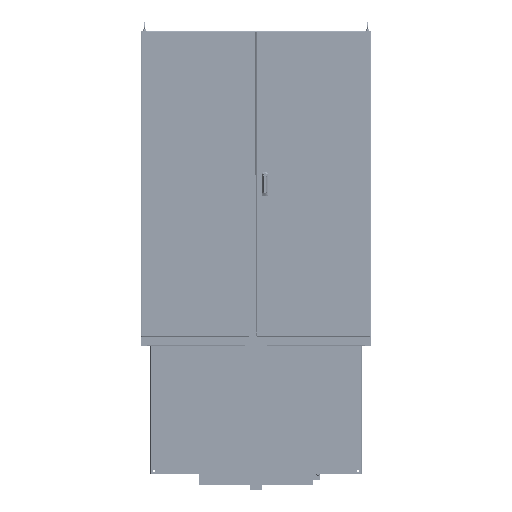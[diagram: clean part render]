
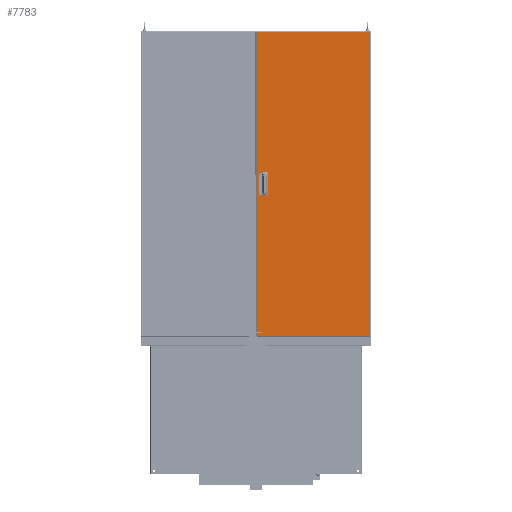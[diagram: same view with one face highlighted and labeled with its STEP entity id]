
A CAD part, front view. The second image highlights one B-rep face of the part: STEP entity #7783.
In plain terms, the highlighted planar face has unit normal (0, -1, 0).
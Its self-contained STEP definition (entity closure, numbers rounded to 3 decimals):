
#7783 = ADVANCED_FACE( '', ( #11497, #11498, #11499, #11500, #11501, #11502 ), #11503, .T. );
#11497 = FACE_BOUND( '', #18140, .T. );
#11498 = FACE_BOUND( '', #18141, .T. );
#11499 = FACE_BOUND( '', #18142, .T. );
#11500 = FACE_OUTER_BOUND( '', #18143, .T. );
#11501 = FACE_BOUND( '', #18144, .T. );
#11502 = FACE_BOUND( '', #18145, .T. );
#11503 = PLANE( '', #18146 );
#18140 = EDGE_LOOP( '', ( #32318, #32319, #32320, #32321 ) );
#18141 = EDGE_LOOP( '', ( #32322 ) );
#18142 = EDGE_LOOP( '', ( #32323, #32324, #32325, #32326 ) );
#18143 = EDGE_LOOP( '', ( #32327, #32328, #32329, #32330 ) );
#18144 = EDGE_LOOP( '', ( #32331, #32332, #32333, #32334 ) );
#18145 = EDGE_LOOP( '', ( #32335 ) );
#18146 = AXIS2_PLACEMENT_3D( '', #32336, #32337, #32338 );
#32318 = ORIENTED_EDGE( '', *, *, #51620, .F. );
#32319 = ORIENTED_EDGE( '', *, *, #51621, .F. );
#32320 = ORIENTED_EDGE( '', *, *, #51622, .F. );
#32321 = ORIENTED_EDGE( '', *, *, #51623, .F. );
#32322 = ORIENTED_EDGE( '', *, *, #51624, .T. );
#32323 = ORIENTED_EDGE( '', *, *, #51625, .F. );
#32324 = ORIENTED_EDGE( '', *, *, #51626, .F. );
#32325 = ORIENTED_EDGE( '', *, *, #51627, .F. );
#32326 = ORIENTED_EDGE( '', *, *, #51628, .F. );
#32327 = ORIENTED_EDGE( '', *, *, #51629, .T. );
#32328 = ORIENTED_EDGE( '', *, *, #51630, .F. );
#32329 = ORIENTED_EDGE( '', *, *, #51631, .F. );
#32330 = ORIENTED_EDGE( '', *, *, #51632, .F. );
#32331 = ORIENTED_EDGE( '', *, *, #51633, .T. );
#32332 = ORIENTED_EDGE( '', *, *, #51634, .T. );
#32333 = ORIENTED_EDGE( '', *, *, #51635, .T. );
#32334 = ORIENTED_EDGE( '', *, *, #51636, .T. );
#32335 = ORIENTED_EDGE( '', *, *, #51637, .T. );
#32336 = CARTESIAN_POINT( '', ( -397.701, 0., -1059.656 ) );
#32337 = DIRECTION( '', ( 0., -1., 0. ) );
#32338 = DIRECTION( '', ( 0., 0., -1. ) );
#51620 = EDGE_CURVE( '', #59433, #59434, #59435, .T. );
#51621 = EDGE_CURVE( '', #59436, #59433, #59437, .T. );
#51622 = EDGE_CURVE( '', #59438, #59436, #59439, .T. );
#51623 = EDGE_CURVE( '', #59434, #59438, #59440, .T. );
#51624 = EDGE_CURVE( '', #59441, #59441, #59442, .T. );
#51625 = EDGE_CURVE( '', #59443, #59444, #59445, .T. );
#51626 = EDGE_CURVE( '', #59446, #59443, #59447, .T. );
#51627 = EDGE_CURVE( '', #59448, #59446, #59449, .T. );
#51628 = EDGE_CURVE( '', #59444, #59448, #59450, .T. );
#51629 = EDGE_CURVE( '', #59451, #59452, #59453, .T. );
#51630 = EDGE_CURVE( '', #59454, #59452, #59455, .T. );
#51631 = EDGE_CURVE( '', #59456, #59454, #59457, .T. );
#51632 = EDGE_CURVE( '', #59451, #59456, #59458, .T. );
#51633 = EDGE_CURVE( '', #59459, #59460, #59461, .T. );
#51634 = EDGE_CURVE( '', #59460, #59462, #59463, .T. );
#51635 = EDGE_CURVE( '', #59462, #59464, #59465, .T. );
#51636 = EDGE_CURVE( '', #59464, #59459, #59466, .T. );
#51637 = EDGE_CURVE( '', #59467, #59467, #59468, .T. );
#59433 = VERTEX_POINT( '', #72134 );
#59434 = VERTEX_POINT( '', #72135 );
#59435 = LINE( '', #72136, #72137 );
#59436 = VERTEX_POINT( '', #72138 );
#59437 = LINE( '', #72139, #72140 );
#59438 = VERTEX_POINT( '', #72141 );
#59439 = LINE( '', #72142, #72143 );
#59440 = LINE( '', #72144, #72145 );
#59441 = VERTEX_POINT( '', #72146 );
#59442 = CIRCLE( '', #72147, 4.013 );
#59443 = VERTEX_POINT( '', #72148 );
#59444 = VERTEX_POINT( '', #72149 );
#59445 = LINE( '', #72150, #72151 );
#59446 = VERTEX_POINT( '', #72152 );
#59447 = LINE( '', #72153, #72154 );
#59448 = VERTEX_POINT( '', #72155 );
#59449 = LINE( '', #72156, #72157 );
#59450 = LINE( '', #72158, #72159 );
#59451 = VERTEX_POINT( '', #72160 );
#59452 = VERTEX_POINT( '', #72161 );
#59453 = LINE( '', #72162, #72163 );
#59454 = VERTEX_POINT( '', #72164 );
#59455 = LINE( '', #72165, #72166 );
#59456 = VERTEX_POINT( '', #72167 );
#59457 = LINE( '', #72168, #72169 );
#59458 = LINE( '', #72170, #72171 );
#59459 = VERTEX_POINT( '', #72172 );
#59460 = VERTEX_POINT( '', #72173 );
#59461 = LINE( '', #72174, #72175 );
#59462 = VERTEX_POINT( '', #72176 );
#59463 = LINE( '', #72177, #72178 );
#59464 = VERTEX_POINT( '', #72179 );
#59465 = LINE( '', #72180, #72181 );
#59466 = LINE( '', #72182, #72183 );
#59467 = VERTEX_POINT( '', #72184 );
#59468 = CIRCLE( '', #72185, 4.013 );
#72134 = CARTESIAN_POINT( '', ( -350.183, 0., 75.006 ) );
#72135 = CARTESIAN_POINT( '', ( -350.183, 0., 24.994 ) );
#72136 = CARTESIAN_POINT( '', ( -350.183, 0., 75.006 ) );
#72137 = VECTOR( '', #91021, 1000. );
#72138 = CARTESIAN_POINT( '', ( -325.189, 0., 75.006 ) );
#72139 = CARTESIAN_POINT( '', ( -325.189, 0., 75.006 ) );
#72140 = VECTOR( '', #91022, 1000. );
#72141 = CARTESIAN_POINT( '', ( -325.189, 0., 24.994 ) );
#72142 = CARTESIAN_POINT( '', ( -325.189, 0., 24.994 ) );
#72143 = VECTOR( '', #91023, 1000. );
#72144 = CARTESIAN_POINT( '', ( -350.183, 0., 24.994 ) );
#72145 = VECTOR( '', #91024, 1000. );
#72146 = CARTESIAN_POINT( '', ( -369.664, 0., 35.001 ) );
#72147 = AXIS2_PLACEMENT_3D( '', #91025, #91026, #91027 );
#72148 = CARTESIAN_POINT( '', ( -374.198, 0., 15.875 ) );
#72149 = CARTESIAN_POINT( '', ( -374.198, 0., -15.875 ) );
#72150 = CARTESIAN_POINT( '', ( -374.198, 0., 15.875 ) );
#72151 = VECTOR( '', #91028, 1000. );
#72152 = CARTESIAN_POINT( '', ( -369.194, 0., 15.875 ) );
#72153 = CARTESIAN_POINT( '', ( -369.194, 0., 15.875 ) );
#72154 = VECTOR( '', #91029, 1000. );
#72155 = CARTESIAN_POINT( '', ( -369.194, 0., -15.875 ) );
#72156 = CARTESIAN_POINT( '', ( -369.194, 0., -15.875 ) );
#72157 = VECTOR( '', #91030, 1000. );
#72158 = CARTESIAN_POINT( '', ( -374.198, 0., -15.875 ) );
#72159 = VECTOR( '', #91031, 1000. );
#72160 = CARTESIAN_POINT( '', ( 394.957, 0., 1056.913 ) );
#72161 = CARTESIAN_POINT( '', ( -394.957, 0., 1056.913 ) );
#72162 = CARTESIAN_POINT( '', ( 394.957, 0., 1056.913 ) );
#72163 = VECTOR( '', #91032, 1000. );
#72164 = CARTESIAN_POINT( '', ( -394.957, 0., -1056.913 ) );
#72165 = CARTESIAN_POINT( '', ( -394.957, 0., -1056.913 ) );
#72166 = VECTOR( '', #91033, 1000. );
#72167 = CARTESIAN_POINT( '', ( 394.957, 0., -1056.913 ) );
#72168 = CARTESIAN_POINT( '', ( 394.957, 0., -1056.913 ) );
#72169 = VECTOR( '', #91034, 1000. );
#72170 = CARTESIAN_POINT( '', ( 394.957, 0., 1056.913 ) );
#72171 = VECTOR( '', #91035, 1000. );
#72172 = CARTESIAN_POINT( '', ( -350.183, 0., -25.019 ) );
#72173 = CARTESIAN_POINT( '', ( -325.189, 0., -25.019 ) );
#72174 = CARTESIAN_POINT( '', ( -350.183, 0., -25.019 ) );
#72175 = VECTOR( '', #91036, 1000. );
#72176 = CARTESIAN_POINT( '', ( -325.189, 0., -75.032 ) );
#72177 = CARTESIAN_POINT( '', ( -325.189, 0., -25.019 ) );
#72178 = VECTOR( '', #91037, 1000. );
#72179 = CARTESIAN_POINT( '', ( -350.183, 0., -75.032 ) );
#72180 = CARTESIAN_POINT( '', ( -325.189, 0., -75.032 ) );
#72181 = VECTOR( '', #91038, 1000. );
#72182 = CARTESIAN_POINT( '', ( -350.183, 0., -75.032 ) );
#72183 = VECTOR( '', #91039, 1000. );
#72184 = CARTESIAN_POINT( '', ( -369.664, 0., -35.001 ) );
#72185 = AXIS2_PLACEMENT_3D( '', #91040, #91041, #91042 );
#91021 = DIRECTION( '', ( 0., 0., -1. ) );
#91022 = DIRECTION( '', ( -1., 0., 0. ) );
#91023 = DIRECTION( '', ( 0., 0., 1. ) );
#91024 = DIRECTION( '', ( 1., 0., 0. ) );
#91025 = CARTESIAN_POINT( '', ( -373.678, 0., 35.001 ) );
#91026 = DIRECTION( '', ( 0., 1., 0. ) );
#91027 = DIRECTION( '', ( 1., 0., 0. ) );
#91028 = DIRECTION( '', ( 0., 0., -1. ) );
#91029 = DIRECTION( '', ( -1., 0., 0. ) );
#91030 = DIRECTION( '', ( 0., 0., 1. ) );
#91031 = DIRECTION( '', ( 1., 0., 0. ) );
#91032 = DIRECTION( '', ( -1., 0., 0. ) );
#91033 = DIRECTION( '', ( 0., 0., 1. ) );
#91034 = DIRECTION( '', ( -1., 0., 0. ) );
#91035 = DIRECTION( '', ( 0., 0., -1. ) );
#91036 = DIRECTION( '', ( 1., 0., 0. ) );
#91037 = DIRECTION( '', ( 0., 0., -1. ) );
#91038 = DIRECTION( '', ( -1., 0., 0. ) );
#91039 = DIRECTION( '', ( 0., 0., 1. ) );
#91040 = CARTESIAN_POINT( '', ( -373.678, 0., -35.001 ) );
#91041 = DIRECTION( '', ( 0., 1., 0. ) );
#91042 = DIRECTION( '', ( 1., 0., 0. ) );
